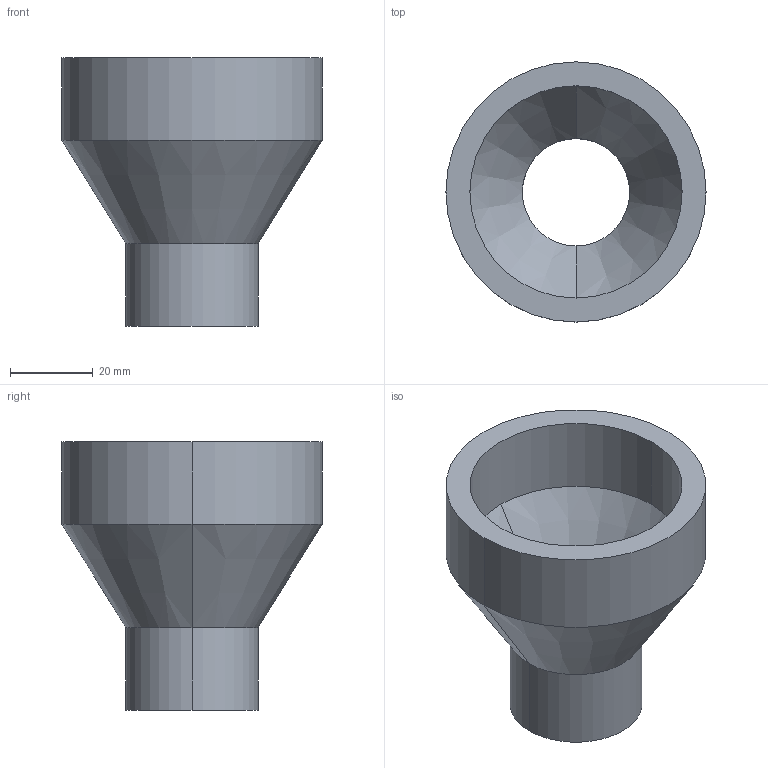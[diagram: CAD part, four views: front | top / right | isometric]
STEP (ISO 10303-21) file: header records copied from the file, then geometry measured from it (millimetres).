
FILE_DESCRIPTION (( 'STEP AP203' ), '1' );
FILE_NAME ('KP_9-63-32.step', '2011-08-08T11:41:10', ( '' ), ( '' ), 'SwSTEP 2.0', 'SolidWorks 2011', '' );
FILE_SCHEMA (( 'CONFIG_CONTROL_DESIGN' ));
Length unit declared in the file: millimetre
Products named in the file (1): KP_9-63-32
Bounding box: 63 x 63 x 65 mm (x, y, z)
Volume: 47047.1 mm3; surface area: 19722.9 mm2
Topology: 1 solids, 1 shells, 14 faces, 32 edges, 20 vertices
Faces by surface type: cylinder 8, cone 4, plane 2
Entity records: 485 total; most frequent: DIRECTION 82, CARTESIAN_POINT 67, ORIENTED_EDGE 64, AXIS2_PLACEMENT_3D 35, EDGE_CURVE 32, CIRCLE 20, VERTEX_POINT 20, EDGE_LOOP 16
